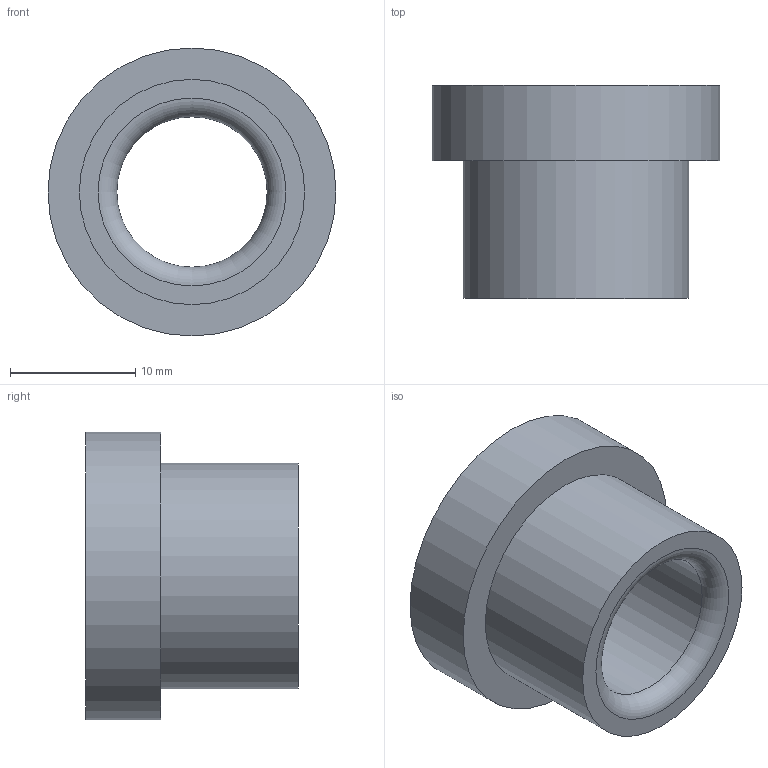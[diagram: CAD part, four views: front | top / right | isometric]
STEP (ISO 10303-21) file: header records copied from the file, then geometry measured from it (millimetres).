
FILE_DESCRIPTION(/* description */ ('STEP AP214'),/* implementation_level */ '2;1');
FILE_NAME(/* name */ '03_12_17902',/* time_stamp */ '2023-06-15T11:35:22+02:00',/* author */ ('License CC BY-ND 4.0'),/* organization */ ('CADENAS'),/* preprocessor_version */ 'ST-DEVELOPER v19.3',/* originating_system */ 'PARTsolutions',/* authorisation */ ' ');
FILE_SCHEMA (('AUTOMOTIVE_DESIGN {1 0 10303 214 3 1 1}'));
Length unit declared in the file: millimetre
Products named in the file (1): VA_Bushing_17902
Bounding box: 23 x 17 x 23 mm (x, y, z)
Volume: 3290.6 mm3; surface area: 2259.9 mm2
Topology: 1 solids, 1 shells, 10 faces, 16 edges, 10 vertices
Faces by surface type: cylinder 4, plane 4, torus 2
Full cylindrical faces by diameter (mm): 12 x1, 12.6 x1, 18 x1, 23 x1
Entity records: 302 total; most frequent: DIRECTION 42, CARTESIAN_POINT 31, AXIS2_PLACEMENT_3D 21, ORIENTED_EDGE 20, EDGE_LOOP 20, FACE_BOUND 20, EDGE_CURVE 10, VERTEX_POINT 10
